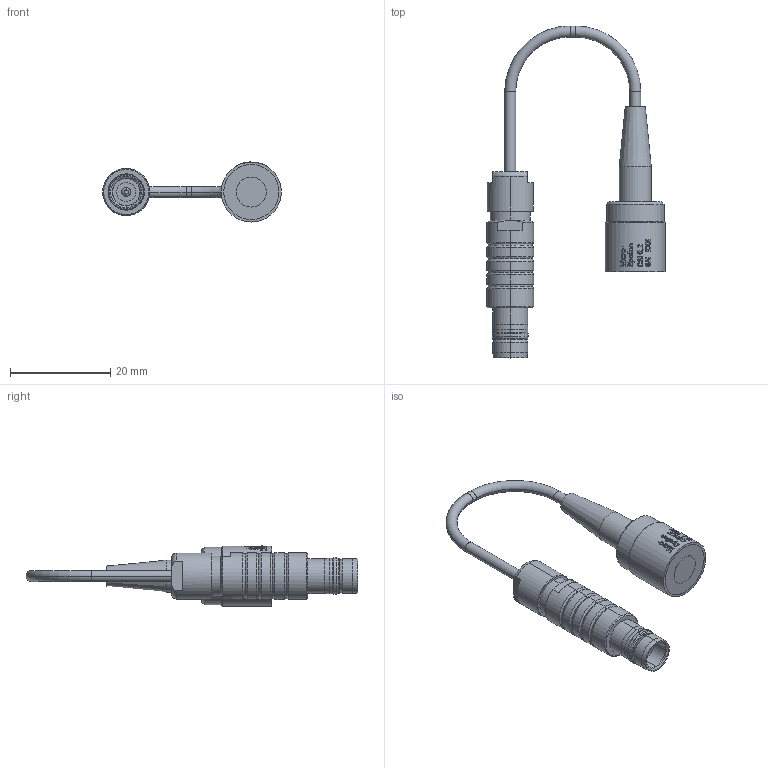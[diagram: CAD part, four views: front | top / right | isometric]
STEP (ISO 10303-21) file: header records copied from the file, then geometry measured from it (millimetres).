
FILE_DESCRIPTION((''),'2;1');
FILE_NAME('6610089-A_ASM','2009-08-18T',('11000065'),(''),'PRO/ENGINEER BY PARAMETRIC TECHNOLOGY CORPORATION, 2008490','PRO/ENGINEER BY PARAMETRIC TECHNOLOGY CORPORATION, 2008490','');
FILE_SCHEMA(('AUTOMOTIVE_DESIGN { 1 2 10303 214 0 1 1 1 }'));
Length unit declared in the file: millimetre
Products named in the file (3): 6610089-A; 0323139; 6610089-A_ASM
Assembly tree (2 placements, depth 2):
  6610089-A_ASM
    6610089-A
    0323139
Bounding box: 35.7 x 66.36 x 12.01 mm (x, y, z)
Volume: 4272.5 mm3; surface area: 2791.5 mm2
Topology: 2 solids, 2 shells, 771 faces, 2100 edges, 1376 vertices
Faces by surface type: plane 635, cylinder 76, cone 32, torus 26, bspline 2
Entity records: 31259 total; most frequent: CARTESIAN_POINT 6167, ORIENTED_EDGE 4200, DIRECTION 3116, PRESENTATION_STYLE_ASSIGNMENT 2152, STYLED_ITEM 2103, CURVE_STYLE 2100, EDGE_CURVE 2100, VERTEX_POINT 1376
